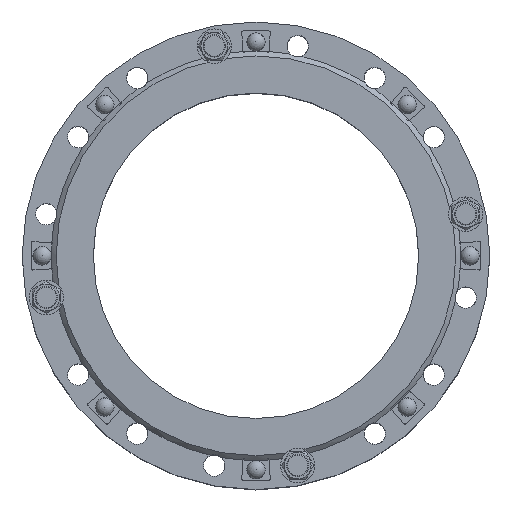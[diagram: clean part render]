
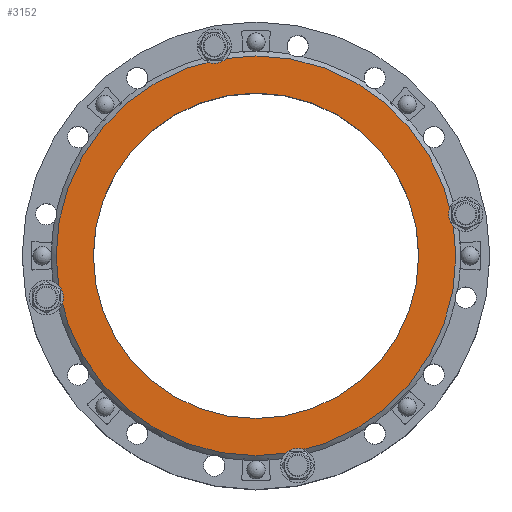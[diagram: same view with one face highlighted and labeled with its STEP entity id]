
A CAD part, top view. The second image highlights one B-rep face of the part: STEP entity #3152.
In plain terms, the highlighted planar face has unit normal (0, 0, 1) as drawn and (0, 0, -1) by its records, which use the part's own axes.
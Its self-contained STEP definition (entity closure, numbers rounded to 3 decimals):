
#3152=ADVANCED_FACE('',(#4916,#4918),#4920,.F.);
#4916=FACE_BOUND('',#4917,.T.);
#4917=EDGE_LOOP('',(#7373));
#4918=FACE_BOUND('',#4919,.T.);
#4919=EDGE_LOOP('',(#7374));
#4920=PLANE('',#4921);
#4921=AXIS2_PLACEMENT_3D('',#4922,#4923,#4924);
#4922=CARTESIAN_POINT('',(0.,0.,0.));
#4923=DIRECTION('',(0.,0.,1.));
#4924=DIRECTION('',(-1.,0.,0.));
#7373=ORIENTED_EDGE('',*,*,#8355,.F.);
#7374=ORIENTED_EDGE('',*,*,#8503,.T.);
#8355=EDGE_CURVE('',#9573,#9573,#9574,.T.);
#8503=EDGE_CURVE('',#9803,#9803,#9804,.T.);
#9573=VERTEX_POINT('',#17250);
#9574=CIRCLE('',#17251,215.);
#9803=VERTEX_POINT('',#17826);
#9804=CIRCLE('',#17827,175.);
#17250=CARTESIAN_POINT('',(-215.,0.,0.));
#17251=AXIS2_PLACEMENT_3D('',#17252,#17253,#17254);
#17252=CARTESIAN_POINT('',(0.,0.,0.));
#17253=DIRECTION('',(0.,0.,1.));
#17254=DIRECTION('',(-1.,0.,0.));
#17826=CARTESIAN_POINT('',(-175.,0.,0.));
#17827=AXIS2_PLACEMENT_3D('',#17828,#17829,#17830);
#17828=CARTESIAN_POINT('',(0.,0.,0.));
#17829=DIRECTION('',(0.,0.,1.));
#17830=DIRECTION('',(-1.,0.,0.));
